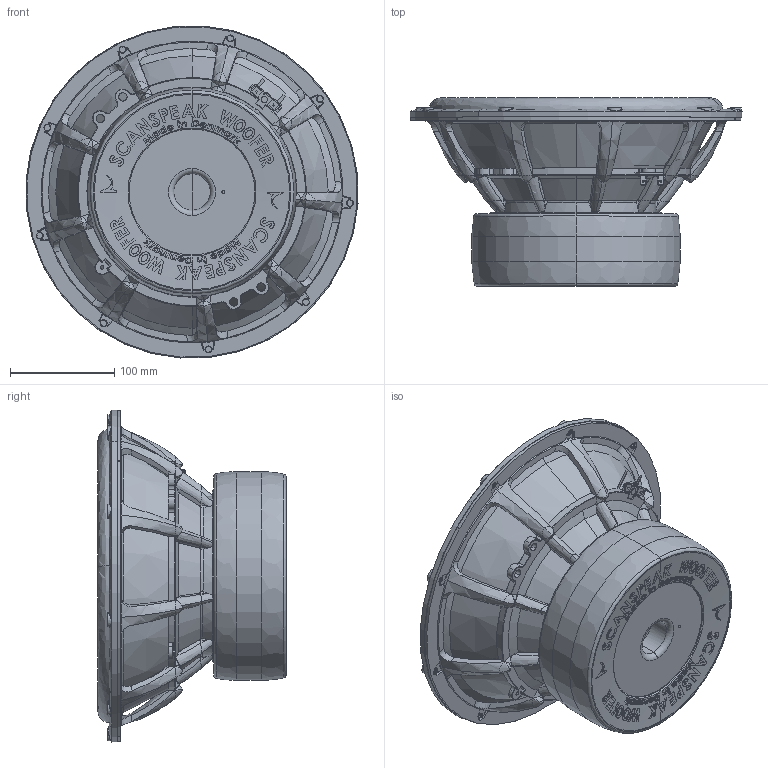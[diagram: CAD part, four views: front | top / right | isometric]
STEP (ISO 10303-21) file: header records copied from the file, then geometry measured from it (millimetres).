
FILE_DESCRIPTION (( 'STEP AP214' ), '1' );
FILE_NAME ('32W-8878T11.STEP', '2020-11-24T10:48:58', ( '' ), ( '' ), 'SwSTEP 2.0', 'SolidWorks 2019', '' );
FILE_SCHEMA (( 'AUTOMOTIVE_DESIGN' ));
Length unit declared in the file: millimetre
Products named in the file (1): 32W-8878T11
Bounding box: 319.1 x 180.97 x 319.1 mm (x, y, z)
Volume: 5093928.8 mm3; surface area: 431980.5 mm2
Topology: 1 solids, 4 shells, 2158 faces, 5988 edges, 3834 vertices
Faces by surface type: bspline 680, plane 664, cylinder 313, cone 310, torus 165, sphere 26
Entity records: 131363 total; most frequent: CARTESIAN_POINT 61842, ORIENTED_EDGE 11852, DIRECTION 6614, EDGE_CURVE 5926, VERTEX_POINT 3816, B_SPLINE_CURVE_WITH_KNOTS 3262, AXIS2_PLACEMENT_3D 2581, EDGE_LOOP 2278
